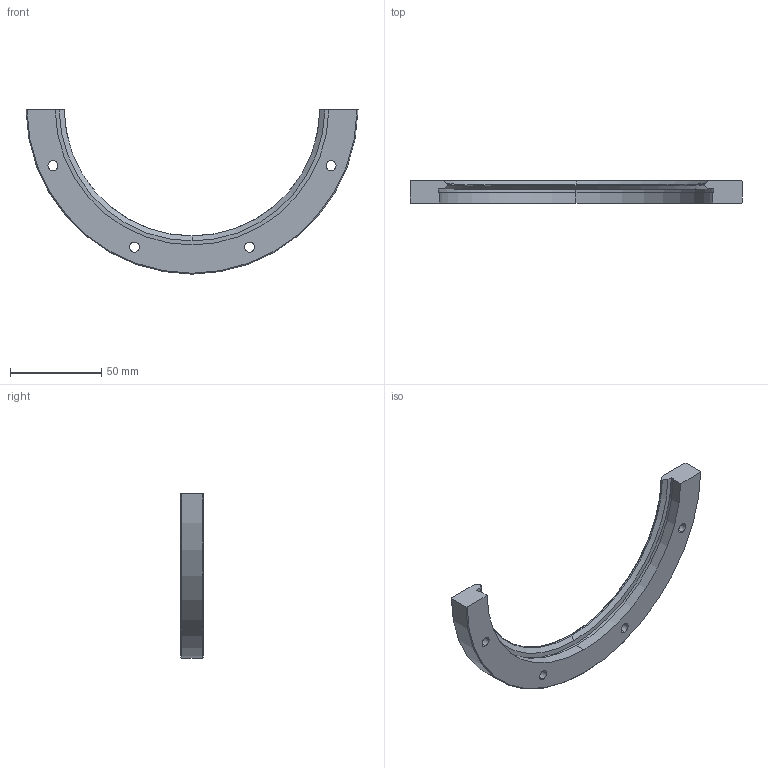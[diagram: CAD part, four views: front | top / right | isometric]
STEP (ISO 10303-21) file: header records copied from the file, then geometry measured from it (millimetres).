
FILE_DESCRIPTION(('STEP AP203'),'1');
FILE_NAME('ris_182_r180.stp','2021-08-30T05:45:41',('TraceParts'),('TraceParts S.A.'),'Spatial InterOp 3D',' ',' ');
FILE_SCHEMA(('CONFIG_CONTROL_DESIGN'));
Length unit declared in the file: millimetre
Products named in the file (1): 1
Bounding box: 181.99 x 12.25 x 90 mm (x, y, z)
Volume: 51898.4 mm3; surface area: 17672 mm2
Topology: 1 solids, 1 shells, 44 faces, 109 edges, 71 vertices
Faces by surface type: cylinder 22, plane 10, cone 8, torus 4
Entity records: 1413 total; most frequent: CARTESIAN_POINT 269, DIRECTION 247, ORIENTED_EDGE 218, EDGE_CURVE 109, AXIS2_PLACEMENT_3D 105, VERTEX_POINT 71, CIRCLE 60, EDGE_LOOP 56
